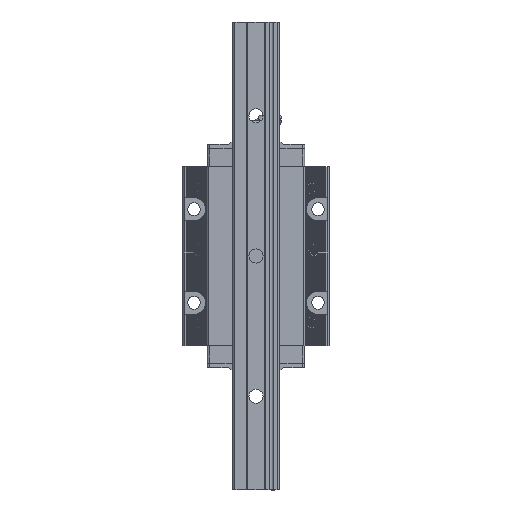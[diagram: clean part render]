
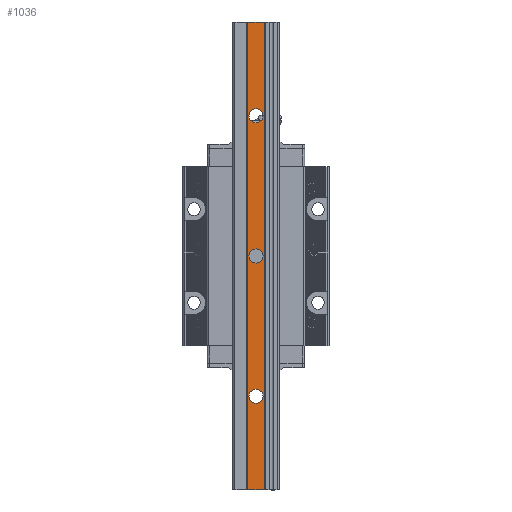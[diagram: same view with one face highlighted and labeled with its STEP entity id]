
A CAD part, front view. The second image highlights one B-rep face of the part: STEP entity #1036.
In plain terms, the highlighted planar face has unit normal (0, -1, 0).
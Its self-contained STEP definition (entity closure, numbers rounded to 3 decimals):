
#214=CARTESIAN_POINT('',(15.994,-63.323,63.));
#215=VERTEX_POINT('',#214);
#216=CARTESIAN_POINT('',(15.994,-63.323,60.0));
#217=DIRECTION('',(0.0,-1.0,0.0));
#218=DIRECTION('',(0.0,0.0,1.0));
#219=AXIS2_PLACEMENT_3D('',#216,#217,#218);
#220=CIRCLE('',#219,3.);
#221=EDGE_CURVE('',#215,#215,#220,.T.);
#242=CARTESIAN_POINT('',(15.994,-63.323,3.));
#243=VERTEX_POINT('',#242);
#244=CARTESIAN_POINT('',(15.994,-63.323,0.));
#245=DIRECTION('',(0.0,-1.0,0.0));
#246=DIRECTION('',(0.0,0.0,1.0));
#247=AXIS2_PLACEMENT_3D('',#244,#245,#246);
#248=CIRCLE('',#247,3.);
#249=EDGE_CURVE('',#243,#243,#248,.T.);
#270=CARTESIAN_POINT('',(15.994,-63.323,-57.));
#271=VERTEX_POINT('',#270);
#272=CARTESIAN_POINT('',(15.994,-63.323,-60.));
#273=DIRECTION('',(0.0,-1.0,0.0));
#274=DIRECTION('',(0.0,0.0,1.0));
#275=AXIS2_PLACEMENT_3D('',#272,#273,#274);
#276=CIRCLE('',#275,3.);
#277=EDGE_CURVE('',#271,#271,#276,.T.);
#502=CARTESIAN_POINT('',(12.395,-63.323,-100.));
#503=VERTEX_POINT('',#502);
#504=CARTESIAN_POINT('',(12.395,-63.323,100.0));
#505=VERTEX_POINT('',#504);
#506=CARTESIAN_POINT('',(12.395,-63.323,-100.));
#507=DIRECTION('',(0.0,0.0,1.0));
#508=VECTOR('',#507,200.);
#509=LINE('',#506,#508);
#510=EDGE_CURVE('',#503,#505,#509,.T.);
#552=CARTESIAN_POINT('',(19.595,-63.323,100.0));
#553=VERTEX_POINT('',#552);
#560=CARTESIAN_POINT('',(19.595,-63.323,-100.0));
#561=VERTEX_POINT('',#560);
#562=CARTESIAN_POINT('',(19.595,-63.323,100.0));
#563=DIRECTION('',(0.0,0.0,-1.0));
#564=VECTOR('',#563,200.0);
#565=LINE('',#562,#564);
#566=EDGE_CURVE('',#553,#561,#565,.T.);
#1006=CARTESIAN_POINT('',(19.595,-63.323,100.0));
#1007=DIRECTION('',(0.0,1.0,0.0));
#1008=DIRECTION('',(0.0,0.0,1.0));
#1009=AXIS2_PLACEMENT_3D('',#1006,#1007,#1008);
#1010=PLANE('',#1009);
#1011=ORIENTED_EDGE('',*,*,#566,.F.);
#1012=CARTESIAN_POINT('',(12.395,-63.323,100.0));
#1013=DIRECTION('',(1.0,0.0,0.0));
#1014=VECTOR('',#1013,7.2);
#1015=LINE('',#1012,#1014);
#1016=EDGE_CURVE('',#505,#553,#1015,.T.);
#1017=ORIENTED_EDGE('',*,*,#1016,.F.);
#1018=ORIENTED_EDGE('',*,*,#510,.F.);
#1019=CARTESIAN_POINT('',(12.395,-63.323,-100.));
#1020=DIRECTION('',(1.0,0.0,0.0));
#1021=VECTOR('',#1020,7.2);
#1022=LINE('',#1019,#1021);
#1023=EDGE_CURVE('',#503,#561,#1022,.T.);
#1024=ORIENTED_EDGE('',*,*,#1023,.T.);
#1025=EDGE_LOOP('',(#1011,#1017,#1018,#1024));
#1026=FACE_OUTER_BOUND('',#1025,.T.);
#1027=ORIENTED_EDGE('',*,*,#221,.F.);
#1028=EDGE_LOOP('',(#1027));
#1029=FACE_BOUND('',#1028,.T.);
#1030=ORIENTED_EDGE('',*,*,#249,.F.);
#1031=EDGE_LOOP('',(#1030));
#1032=FACE_BOUND('',#1031,.T.);
#1033=ORIENTED_EDGE('',*,*,#277,.F.);
#1034=EDGE_LOOP('',(#1033));
#1035=FACE_BOUND('',#1034,.T.);
#1036=ADVANCED_FACE('',(#1026,#1029,#1032,#1035),#1010,.F.);
